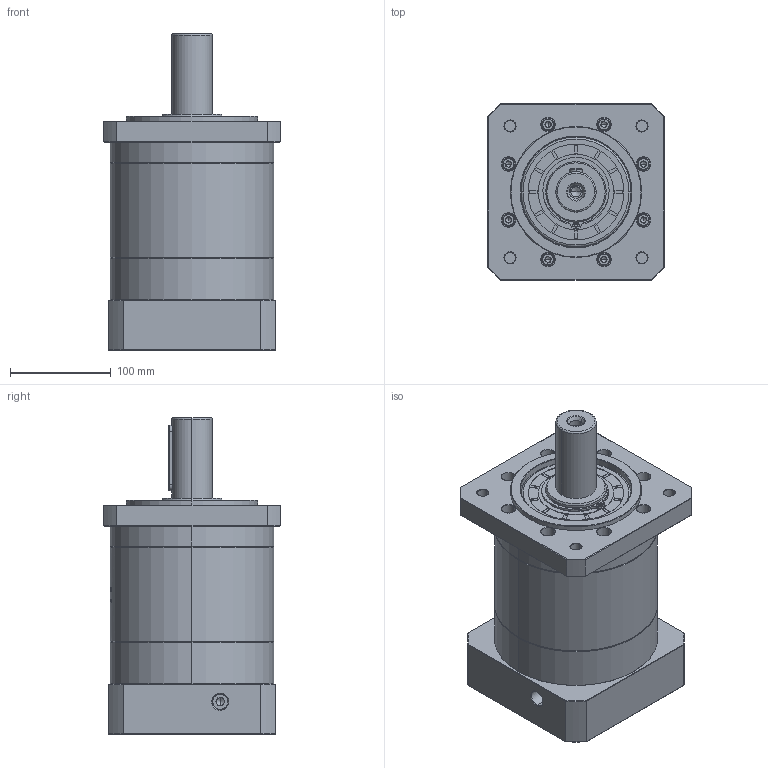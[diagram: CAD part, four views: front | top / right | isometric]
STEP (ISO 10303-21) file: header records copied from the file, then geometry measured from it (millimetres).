
FILE_DESCRIPTION (( 'STEP AP214' ), '1' );
FILE_NAME ('ZF160-D40-L2-32-150-185-M10.step', '2023-03-21T04:29:26', ( '' ), ( '' ), 'SwSTEP 2.0', 'SolidWorks 2016', '' );
FILE_SCHEMA (( 'AUTOMOTIVE_DESIGN' ));
Length unit declared in the file: millimetre
Products named in the file (1): ZF160-D40-L2-32-150-185-M10
Bounding box: 175 x 175 x 314.2 mm (x, y, z)
Volume: 4866720 mm3; surface area: 348770.6 mm2
Topology: 6 solids, 6 shells, 1636 faces, 4253 edges, 2721 vertices
Faces by surface type: plane 644, cylinder 426, cone 326, bspline 218, torus 22
Entity records: 93021 total; most frequent: CARTESIAN_POINT 37228, ORIENTED_EDGE 8446, DIRECTION 7144, EDGE_CURVE 4223, VERTEX_POINT 2721, AXIS2_PLACEMENT_3D 2475, VECTOR 2194, LINE 2194
